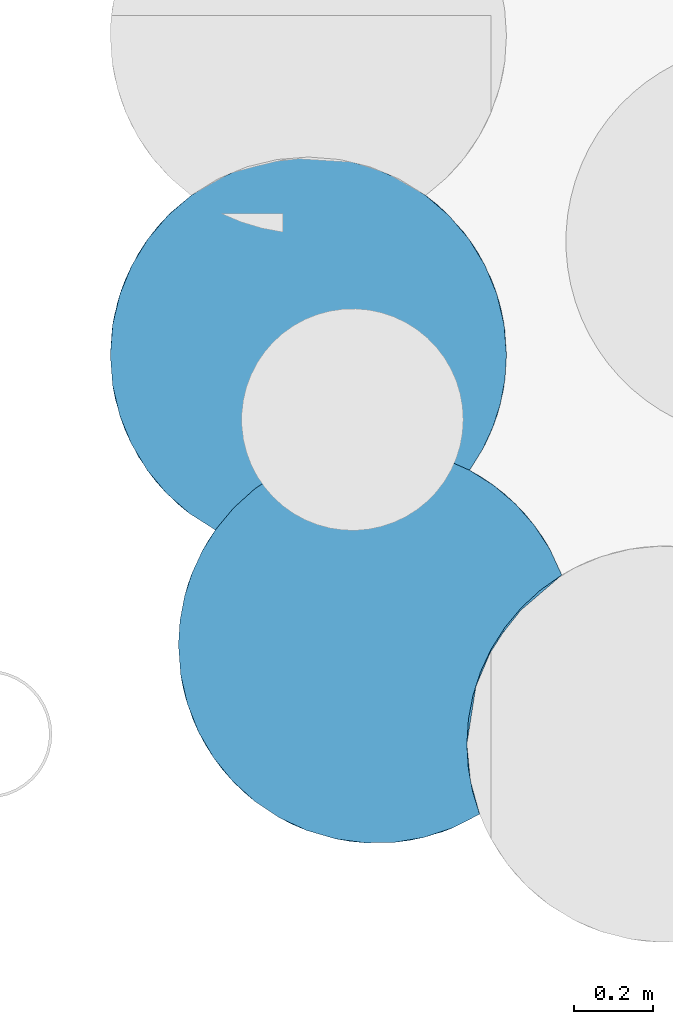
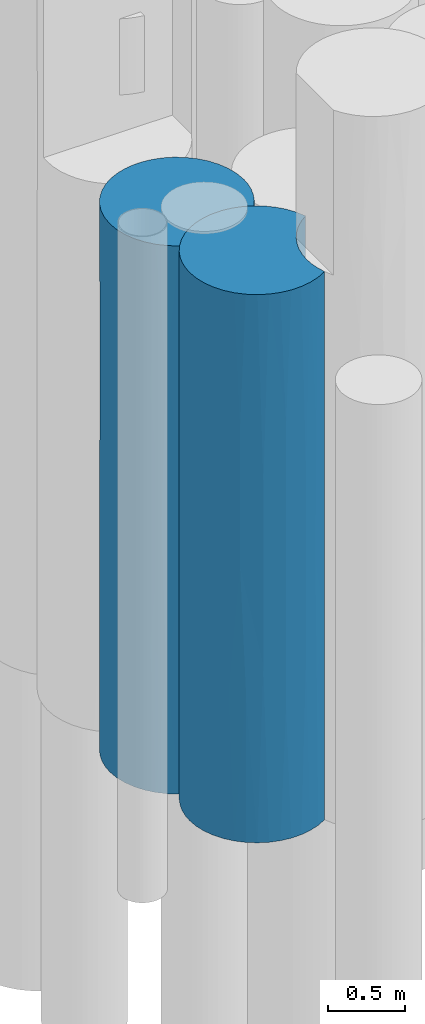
# One storey, part 32 of 104: 2 piles.
"""IFC2X3 building model written with IfcOpenShell, lengths in millimetres."""

import ifcopenshell
import ifcopenshell.guid

model = None  # the IFC model being written
_history = None  # IfcOwnerHistory: only IFC2X3 demands one
_inside = {}  # id of a spatial element -> (the spatial element, [elements in it])
_under = {}  # id of a project, library or spatial element -> (it, [spatial elements below it])
_declared = {}  # id of a project -> (the project, [libraries it declares])
_typed = {}  # id of a type object -> (the type object, [elements of that type])
_made_of = {}  # id of a material, layer set ... -> (it, [elements and type objects made of it])


def new_model(schema):
    """Start an empty IFC model of exactly this schema.

    Asked for "IFC4X3", IfcOpenShell would pick the latest addendum, in which some entities
    have other attributes; the version numbers below select the first issue.
    IFC2X3 requires an IfcOwnerHistory on every rooted entity: one is made here for all.
    """
    global model, _history
    if schema == "IFC4X3":
        model = ifcopenshell.file(schema_version=(4, 3, 0, 0))
    else:
        model = ifcopenshell.file(schema=schema)
    _inside.clear()
    _under.clear()
    _declared.clear()
    _typed.clear()
    _made_of.clear()
    _history = None
    if model.schema == "IFC2X3":
        org = make("IfcOrganization", Name="unknown")
        user = make(
            "IfcPersonAndOrganization",
            ThePerson=make("IfcPerson", FamilyName="unknown"),
            TheOrganization=org,
        )
        app = make(
            "IfcApplication",
            ApplicationDeveloper=org,
            Version="unknown",
            ApplicationFullName="unknown",
            ApplicationIdentifier="unknown",
        )
        _history = make(
            "IfcOwnerHistory",
            OwningUser=user,
            OwningApplication=app,
            ChangeAction="ADDED",
            CreationDate=0,
        )
    return model


def make(cls, **values):
    """One entity of the class cls with the attributes given. An attribute that is None is left unset."""
    return model.create_entity(
        cls, **{name: value for name, value in values.items() if value is not None}
    )


def entity(cls, *values):
    """Any entity or typed value of the class cls, its attributes in the order of the schema. None: left unset."""
    e = model.create_entity(cls)
    for i, value in enumerate(values):
        if value is not None:
            e[i] = value
    return e


def rooted(cls, **values):
    """An entity with a GlobalId (a new one), such as an element, a storey or a relation."""
    return make(cls, GlobalId=ifcopenshell.guid.new(), OwnerHistory=_history, **values)


def si_unit(unit_type, name, prefix=None):
    """IfcSIUnit, for example si_unit("LENGTHUNIT", "METRE", prefix="MILLI")."""
    return make("IfcSIUnit", UnitType=unit_type, Prefix=prefix, Name=name)


def converted_unit(unit_type, name, factor, base, dimensions=None, offset=None):
    """IfcConversionBasedUnit, such as the inch: factor (a typed value) times the base unit."""
    return make(
        "IfcConversionBasedUnit"
        if offset is None
        else "IfcConversionBasedUnitWithOffset",
        ConversionOffset=offset,
        Dimensions=None
        if dimensions is None
        else entity("IfcDimensionalExponents", *dimensions),
        UnitType=unit_type,
        Name=name,
        ConversionFactor=make(
            "IfcMeasureWithUnit", ValueComponent=factor, UnitComponent=base
        ),
    )


def derived_unit(unit_type, elements):
    """IfcDerivedUnit: a product of units, each with its exponent."""
    return make(
        "IfcDerivedUnit",
        Elements=[
            make("IfcDerivedUnitElement", Unit=unit, Exponent=power)
            for unit, power in elements
        ],
        UnitType=unit_type,
    )


def assignment(units):
    """IfcUnitAssignment: the units of a project."""
    return None if units is None else make("IfcUnitAssignment", Units=units)


def point(xyz):
    """IfcCartesianPoint."""
    return None if xyz is None else make("IfcCartesianPoint", Coordinates=xyz)


def direction(xyz):
    """IfcDirection."""
    return None if xyz is None else make("IfcDirection", DirectionRatios=xyz)


def frame(location, z_axis=None, x_axis=None):
    """IfcAxis2Placement3D, a coordinate frame: its origin and axes. An axis left out is left unset."""
    return make(
        "IfcAxis2Placement3D",
        Location=point(location),
        Axis=direction(z_axis),
        RefDirection=direction(x_axis),
    )


def origin():
    """The frame at (0, 0, 0) with its axes left unset."""
    return frame((0.0, 0.0, 0.0))


def place(relative_to, where):
    """IfcLocalPlacement: puts the frame where relative to a parent placement (None: the world)."""
    return make(
        "IfcLocalPlacement", PlacementRelTo=relative_to, RelativePlacement=where
    )


def context(
    kind, dimensions, precision=None, world=None, true_north=None, identifier=None
):
    """IfcGeometricRepresentationContext, for example the 3D "Model" context."""
    return make(
        "IfcGeometricRepresentationContext",
        ContextIdentifier=identifier,
        ContextType=kind,
        CoordinateSpaceDimension=dimensions,
        Precision=precision,
        WorldCoordinateSystem=world,
        TrueNorth=true_north,
    )


def subcontext(parent, identifier, kind, view, scale=None):
    """IfcGeometricRepresentationSubContext, for example "Body" below "Model"."""
    return make(
        "IfcGeometricRepresentationSubContext",
        ContextIdentifier=identifier,
        ContextType=kind,
        ParentContext=parent,
        TargetScale=scale,
        TargetView=view,
    )


def project(units=None, contexts=None):
    """IfcProject with its units and contexts."""
    return rooted(
        "IfcProject",
        Name="project",
        RepresentationContexts=contexts,
        UnitsInContext=assignment(units),
    )


def spatial(cls, under=None, at=None, **own):
    """A site, building, storey or space (cls), placed at a placement, below another one or the project."""
    s = rooted(cls, ObjectPlacement=at, **own)
    if under is not None:
        _under.setdefault(under.id(), (under, []))[1].append(s)
    return s


def faces_of(points, faces, orient=None, outer=None):
    """IfcFace entities. A face is a list of loops; a loop is a list of indices into points, from 0.

    orient and outer hold one flag for each loop. By default every Orientation is true, the
    first loop of a face is its IfcFaceOuterBound and the others are IfcFaceBound.
    """
    made = []
    for i, loops in enumerate(faces):
        bounds = []
        for j, loop in enumerate(loops):
            is_outer = j == 0 if outer is None else outer[i][j]
            bounds.append(
                make(
                    "IfcFaceOuterBound" if is_outer else "IfcFaceBound",
                    Bound=make("IfcPolyLoop", Polygon=[points[k] for k in loop]),
                    Orientation=True if orient is None else orient[i][j],
                )
            )
        made.append(make("IfcFace", Bounds=bounds))
    return made


def faceted_brep(points, faces, orient=None, outer=None, voids=None):
    """IfcFacetedBrep: a solid bounded by flat faces; with voids (closed shells), ...WithVoids."""
    shared = [point(p) for p in points]
    hull = make("IfcClosedShell", CfsFaces=faces_of(shared, faces, orient, outer))
    if voids is None:
        return make("IfcFacetedBrep", Outer=hull)
    return make(
        "IfcFacetedBrepWithVoids",
        Outer=hull,
        Voids=[
            make(cls, CfsFaces=faces_of(shared, fs, o, b)) for cls, fs, o, b in voids
        ],
    )


def shape(context_of_items, identifier, shape_type, items):
    """IfcShapeRepresentation: the items that make up one representation, for example the "Body"."""
    return make(
        "IfcShapeRepresentation",
        ContextOfItems=context_of_items,
        RepresentationIdentifier=identifier,
        RepresentationType=shape_type,
        Items=items,
    )


def source(mapping_origin, context_of_items, identifier, shape_type, items):
    """IfcRepresentationMap: a shape defined once, which mapped items show again and again."""
    return make(
        "IfcRepresentationMap",
        MappingOrigin=mapping_origin,
        MappedRepresentation=shape(context_of_items, identifier, shape_type, items),
    )


def transform(
    local_origin,
    x_axis=None,
    y_axis=None,
    z_axis=None,
    scale=None,
    scale2=None,
    scale3=None,
    uniform=True,
):
    """IfcCartesianTransformationOperator3D, or its non-uniform kind. x_axis, y_axis, z_axis: its Axis1, 2, 3."""
    if uniform:
        return make(
            "IfcCartesianTransformationOperator3D",
            Axis1=direction(x_axis),
            Axis2=direction(y_axis),
            LocalOrigin=point(local_origin),
            Scale=scale,
            Axis3=direction(z_axis),
        )
    return make(
        "IfcCartesianTransformationOperator3DnonUniform",
        Axis1=direction(x_axis),
        Axis2=direction(y_axis),
        LocalOrigin=point(local_origin),
        Scale=scale,
        Axis3=direction(z_axis),
        Scale2=scale2,
        Scale3=scale3,
    )


def mapped(mapping_source, mapping_target):
    """IfcMappedItem: shows the shape of a source again, moved by a transform."""
    return make(
        "IfcMappedItem", MappingSource=mapping_source, MappingTarget=mapping_target
    )


def material(Name=None, Category=None):
    """IfcMaterial."""
    return make("IfcMaterial", Name=Name, Category=Category)


def made_of(thing, what):
    """Note that an element or type object is made of a material, layer set ...; save() writes the relation."""
    if what is not None:
        _made_of.setdefault(what.id(), (what, []))[1].append(thing)
    return thing


def element(
    cls,
    number,
    at=None,
    inside=None,
    cuts=None,
    type_object=None,
    material=None,
    context=None,
    identifier="Body",
    shape_type=None,
    held_by="IfcProductDefinitionShape",
    body=None,
    shapes=None,
    **own,
):
    """One element of the class cls, such as IfcWall. Its Tag is "e" and its number.

    at: its placement. inside: the storey or other place that contains it. cuts: it is an
    opening in that element (IfcRelVoidsElement). A single representation is given by context,
    identifier, shape_type and body (its items); several are given by shapes. held_by: the class
    of the entity that holds the representations. save() writes the other relations.
    """
    e = rooted(cls, Tag="e%d" % number, ObjectPlacement=at, **own)
    if body is not None:
        shapes = [shape(context, identifier, shape_type, body)]
    if shapes is not None:
        e.Representation = make(held_by, Representations=shapes)
    if inside is not None:
        _inside.setdefault(inside.id(), (inside, []))[1].append(e)
    if cuts is not None:
        rooted(
            "IfcRelVoidsElement", RelatingBuildingElement=cuts, RelatedOpeningElement=e
        )
    if type_object is not None:
        _typed.setdefault(type_object.id(), (type_object, []))[1].append(e)
    return made_of(e, material)


def aggregate(whole, parts):
    """IfcRelAggregates: a whole, such as a stair, and the parts it consists of."""
    return rooted("IfcRelAggregates", RelatingObject=whole, RelatedObjects=parts)


def save(model, path):
    """Write the relations noted so far, then the file.

    IfcRelAggregates (storeys below a building ...), IfcRelContainedInSpatialStructure (elements
    in a storey), IfcRelDefinesByType, IfcRelAssociatesMaterial and IfcRelDeclares: one each for
    every whole, place, type object, material and project.
    """
    for whole, parts in _under.values():
        aggregate(whole, parts)
    for where, things in _inside.values():
        rooted(
            "IfcRelContainedInSpatialStructure",
            RelatedElements=things,
            RelatingStructure=where,
        )
    for kind, things in _typed.values():
        rooted("IfcRelDefinesByType", RelatedObjects=things, RelatingType=kind)
    for what, things in _made_of.values():
        rooted("IfcRelAssociatesMaterial", RelatedObjects=things, RelatingMaterial=what)
    for by, libraries in _declared.values():
        rooted("IfcRelDeclares", RelatingContext=by, RelatedDefinitions=libraries)
    model.write(path)


model = new_model("IFC2X3")

# Units and contexts
model_context = context("Model", 3, precision=0.01, world=origin(), true_north=direction((6.12303176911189e-17, 1.0)))
body_context = subcontext(model_context, "Body", "Model", "MODEL_VIEW")
ifc_project = project(units=[si_unit("LENGTHUNIT", "METRE", prefix="MILLI"), si_unit("AREAUNIT", "SQUARE_METRE", prefix="MILLI"), si_unit("VOLUMEUNIT", "CUBIC_METRE"), converted_unit("PLANEANGLEUNIT", "DEGREE", entity("IfcRatioMeasure", 0.0174532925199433), si_unit("PLANEANGLEUNIT", "RADIAN"), dimensions=[0, 0, 0, 0, 0, 0, 0]), si_unit("MASSUNIT", "GRAM", prefix="KILO"), derived_unit("MASSDENSITYUNIT", [(si_unit("MASSUNIT", "GRAM", prefix="KILO"), 1), (si_unit("LENGTHUNIT", "METRE"), -3)]), derived_unit("MOMENTOFINERTIAUNIT", [(si_unit("LENGTHUNIT", "METRE"), 4)]), si_unit("TIMEUNIT", "SECOND"), si_unit("FREQUENCYUNIT", "HERTZ"), si_unit("THERMODYNAMICTEMPERATUREUNIT", "DEGREE_CELSIUS"), derived_unit("THERMALTRANSMITTANCEUNIT", [(si_unit("MASSUNIT", "GRAM", prefix="KILO"), 1), (si_unit("THERMODYNAMICTEMPERATUREUNIT", "KELVIN"), -1), (si_unit("TIMEUNIT", "SECOND"), -3)]), derived_unit("VOLUMETRICFLOWRATEUNIT", [(si_unit("LENGTHUNIT", "METRE"), 3), (si_unit("TIMEUNIT", "SECOND"), -1)]), si_unit("ELECTRICCURRENTUNIT", "AMPERE"), si_unit("ELECTRICVOLTAGEUNIT", "VOLT"), si_unit("POWERUNIT", "WATT"), si_unit("FORCEUNIT", "NEWTON", prefix="KILO"), si_unit("ILLUMINANCEUNIT", "LUX"), si_unit("LUMINOUSFLUXUNIT", "LUMEN"), si_unit("LUMINOUSINTENSITYUNIT", "CANDELA"), derived_unit("USERDEFINED", [(si_unit("MASSUNIT", "GRAM", prefix="KILO"), -1), (si_unit("LENGTHUNIT", "METRE"), -2), (si_unit("TIMEUNIT", "SECOND"), 3), (si_unit("LUMINOUSFLUXUNIT", "LUMEN"), 1)]), derived_unit("LINEARVELOCITYUNIT", [(si_unit("LENGTHUNIT", "METRE"), 1), (si_unit("TIMEUNIT", "SECOND"), -1)]), si_unit("PRESSUREUNIT", "PASCAL"), derived_unit("USERDEFINED", [(si_unit("LENGTHUNIT", "METRE"), -2), (si_unit("MASSUNIT", "GRAM", prefix="KILO"), 1), (si_unit("TIMEUNIT", "SECOND"), -2)]), derived_unit("LINEARFORCEUNIT", [(si_unit("MASSUNIT", "GRAM", prefix="KILO"), 1), (si_unit("LENGTHUNIT", "METRE"), 1), (si_unit("TIMEUNIT", "SECOND"), -2), (si_unit("LENGTHUNIT", "METRE"), -1)]), derived_unit("PLANARFORCEUNIT", [(si_unit("MASSUNIT", "GRAM", prefix="KILO"), 1), (si_unit("LENGTHUNIT", "METRE"), 1), (si_unit("TIMEUNIT", "SECOND"), -2), (si_unit("LENGTHUNIT", "METRE"), -2)])], contexts=[model_context])

# Site, building, storey
site_placement = place(None, origin())
site = spatial("IfcSite", under=ifc_project, at=site_placement, Name="Theater aan de Parade", CompositionType="ELEMENT")
building_placement = place(site_placement, origin())
building = spatial("IfcBuilding", under=site, at=building_placement, Name="Theater aan de Parade", CompositionType="ELEMENT")
storey_placement = place(building_placement, frame((0.0, 0.0, -5520.0)))
storey = spatial("IfcBuildingStorey", under=building, at=storey_placement, Name="-2 kelder", CompositionType="ELEMENT", Elevation=-5520.0)

# Piles
ifc_material = material(Name="00_PBT_MAT_grout")
shared_shape_1 = source(origin(), body_context, "Body", "Brep", [
    faceted_brep([(529.595316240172, 469.952352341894, 0.0), (780.198815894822, 469.952352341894, 0.0), (758.273971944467, 417.667479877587, 0.0), (742.412228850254, 363.249758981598, 0.0), (732.812781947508, 307.39738655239, 0.0), (729.595272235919, 250.765616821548, 0.0), (733.22273945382, 190.646495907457, 0.0), (744.052507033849, 131.39969555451, 0.0), (761.927436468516, 73.8848790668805, 0.0), (694.606769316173, 39.5210374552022, 0.0), (622.876460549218, 15.6977108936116, 0.0), (548.374580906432, 2.95873028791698, 0.0), (472.803483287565, 1.59527226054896, 0.0), (397.889976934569, 11.6386274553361, 0.0), (325.345887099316, 32.8594785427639, 0.0), (256.828955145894, 64.773128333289, 0.0), (193.904971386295, 106.65055904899, 0.0), (138.01200490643, 157.535070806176, 0.0), (90.4275468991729, 216.264120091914, 0.0), (52.2393176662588, 281.495860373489, 0.0), (24.3204039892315, 351.739779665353, 0.0), (7.30938907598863, 425.390118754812, 0.0), (1.5952722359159, 500.765616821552, 0.0), (5.44034762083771, 562.654959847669, 0.0), (16.9079442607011, 623.558915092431, 0.0), (35.82202315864, 682.576728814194, 0.0), (61.891306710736, 738.80011579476, 0.0), (94.7128555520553, 791.359022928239, 0.0), (140.564594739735, 846.68012924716, 0.0), (193.863160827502, 894.848029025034, 0.0), (253.513974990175, 934.880428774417, 0.0), (318.285690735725, 965.951168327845, 0.0), (386.841327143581, 987.419017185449, 0.0), (457.765544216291, 998.840867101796, 0.0), (529.595316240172, 999.980998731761, 0.0), (825.6398441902, 881.547858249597, 1797.02285625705), (852.19975317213, 857.243523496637, 1000.0), (797.399921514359, 903.87801983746, 1000.0), (652.627499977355, 977.409368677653, 3492.65099706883), (736.487734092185, 942.156069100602, 4320.0), (767.63390961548, 924.113515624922, 3391.08988709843), (939.032205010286, 742.941028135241, 4320.0), (969.263108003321, 677.64635457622, 4320.0), (969.263108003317, 677.64635457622, 3539.23138121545), (61.8847293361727, 738.787965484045, 4320.0), (77.4873219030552, 765.590929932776, 3258.80213770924), (35.81648088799, 682.562529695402, 4320.0), (318.602836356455, 966.076016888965, 4320.0), (285.612205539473, 951.710530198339, 3265.22081774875), (253.740150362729, 935.009601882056, 4320.0), (920.470170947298, 773.792756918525, 2128.26990450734), (899.738148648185, 803.225944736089, 1000.0), (687.401884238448, 964.95943726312, 1000.0), (712.246551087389, 954.225690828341, 1882.02867772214), (736.474035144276, 942.163358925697, 1000.0), (166.347671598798, 871.722549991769, 1424.98566727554), (252.565739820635, 934.337170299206, 1216.45978405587), (529.595316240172, 999.980998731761, 1000.0), (1.59527223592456, 500.765616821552, 1561.54631749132), (25.4497033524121, 653.361151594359, 1361.89303162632), (458.259648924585, 998.884100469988, 4320.0), (422.549802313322, 994.477895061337, 2893.0947389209), (387.249287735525, 987.515034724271, 4320.0), (636.176353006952, 982.313052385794, 1000.0), (556.574795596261, 997.733676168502, 2106.50649182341), (140.628099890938, 846.746397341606, 4320.0), (166.447607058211, 871.812840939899, 2887.75895173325), (583.393088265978, 994.029356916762, 1000.0), (25.4460190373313, 653.349654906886, 2958.04113680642), (662.02393305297, 974.329387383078, 2651.77272258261), (939.030530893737, 742.944052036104, 1000.0), (285.341091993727, 951.580578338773, 2159.81765558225), (446.767241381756, 997.750412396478, 1752.6078683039), (352.177456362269, 977.917915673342, 1155.69328857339), (969.263108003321, 677.646354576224, 1879.23138121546), (969.263108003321, 677.64635457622, 1000.0), (876.942749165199, 831.090111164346, 3391.06710769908), (931.609595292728, 755.8884930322, 3148.84669787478), (899.739272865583, 803.224464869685, 4320.0), (852.200161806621, 857.243121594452, 4320.0), (797.40134827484, 903.87697287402, 4320.0), (5.44078722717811, 562.658483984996, 4320.0), (1.59527223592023, 500.765616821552, 2758.4767332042), (77.4930235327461, 765.600060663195, 2159.99532485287), (565.989257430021, 996.601693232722, 3271.92007871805), (194.003143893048, 894.957299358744, 4320.0), (601.479664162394, 990.687149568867, 4320.0), (670.727796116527, 971.291056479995, 4320.0), (530.165406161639, 999.948696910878, 4320.0), (437.492450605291, 996.63941957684, 842.046795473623), (825.639843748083, 881.547858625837, 2659.99837895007), (77.4930236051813, 765.600060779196, 1061.19680304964), (16.9057578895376, 623.550284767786, 4320.0), (94.721610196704, 791.375016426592, 4320.0), (1.59527223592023, 500.765616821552, 4320.0), (969.263108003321, 677.646354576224, 2758.46215101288), (14.4211077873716, 388.243025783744, 1047.60367511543), (48.8502001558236, 288.581970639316, 970.999499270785), (585.866578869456, 7.91843271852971, 2820.49852107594), (435.156680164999, 5.19936142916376, 3267.96699157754), (435.156679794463, 5.19936147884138, 2160.0), (435.156679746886, 5.1993614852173, 1052.03300804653), (585.866578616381, 7.91843267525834, 1388.83186191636), (397.889977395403, 11.6386273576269, 4320.0), (325.345887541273, 32.8594783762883, 4320.0), (113.108399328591, 185.999116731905, 1163.90680760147), (164.995570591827, 131.035119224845, 2160.0), (194.901725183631, 105.874406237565, 1168.6525900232), (290.483511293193, 47.5197405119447, 1388.82679371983), (164.995570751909, 131.035119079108, 3267.9687320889), (138.012005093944, 157.535070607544, 4320.0), (90.4275470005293, 216.264119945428, 4320.0), (18.6521494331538, 371.282258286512, 3012.72441325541), (52.2393177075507, 281.495860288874, 4320.0), (24.3204039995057, 351.739779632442, 4320.0), (290.483511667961, 47.5197403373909, 2820.49030725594), (761.927436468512, 73.8848790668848, 3539.23114681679), (761.927436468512, 73.8848790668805, 4320.0), (694.606769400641, 39.5210374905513, 4320.0), (7.30938907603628, 425.390118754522, 4320.0), (70.0989850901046, 248.157314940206, 3037.40549691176), (36.9505451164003, 316.089474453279, 1904.90796999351), (9.73280577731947, 410.925124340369, 1930.75325702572), (193.904971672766, 106.650558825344, 4320.0), (256.828955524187, 64.7731281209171, 4320.0), (622.876460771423, 15.6977109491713, 4320.0), (678.332151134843, 33.0433962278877, 3148.84672020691), (93.1394587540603, 212.38418809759, 2116.79757400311), (666.753972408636, 28.8306596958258, 2104.66519031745), (761.927436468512, 73.8848790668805, 2758.46229363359), (679.843285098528, 33.6171972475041, 1196.63841599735), (761.927436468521, 73.8848790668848, 2940.76637442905), (472.803483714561, 1.5952722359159, 4320.0), (548.374581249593, 2.95873032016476, 4320.0), (761.927436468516, 73.8848790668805, 1561.53770636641), (761.927436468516, 73.8848790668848, 780.77025098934), (761.927436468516, 73.8848790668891, 2251.15731476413), (825.74706542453, 545.564914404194, 4320.0), (867.666484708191, 595.740330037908, 4320.0), (915.775519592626, 640.01767250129, 4320.0), (744.052507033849, 131.39969555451, 4320.0), (733.22273945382, 190.646495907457, 4320.0), (729.595272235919, 250.765616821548, 4320.0), (733.49439615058, 313.086726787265, 4320.0), (745.124595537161, 374.410929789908, 4320.0), (764.304663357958, 433.808369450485, 4320.0), (790.736647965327, 490.344510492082, 4320.0), (884.719407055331, 612.788596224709, 2086.86724534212), (911.336823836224, 636.396995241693, 1000.0), (776.63761016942, 462.495058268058, 2671.53365529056), (789.908353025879, 488.831601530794, 3473.56458771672), (753.786866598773, 404.409234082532, 3420.83622682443), (729.595272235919, 250.765616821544, 3539.22657774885), (745.902646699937, 377.420439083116, 2628.48148877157), (729.595272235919, 250.765616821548, 780.773422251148), (796.923427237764, 501.355071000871, 1852.34639465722), (845.885753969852, 571.338550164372, 3094.59734111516), (780.198815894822, 469.952352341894, 1000.0), (815.838817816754, 531.488961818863, 1000.0), (859.848225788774, 587.347139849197, 1000.0), (748.648150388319, 387.476501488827, 1800.58262164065), (729.595272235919, 250.765616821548, 2160.0), (746.072366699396, 378.066833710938, 897.060959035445), (729.595272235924, 250.765616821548, 1470.38059685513), (729.595272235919, 250.765616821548, 2849.61323616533), (737.744726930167, 160.859882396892, 1125.57664146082), (737.744726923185, 160.859882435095, 3240.0), (738.289274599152, 157.930188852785, 1906.34549497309), (739.267752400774, 152.893642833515, 2573.92169608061), (529.595316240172, 469.952352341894, 1000.0)], [[[0, 1, 2, 3, 4, 5, 6, 7, 8, 9, 10, 11, 12, 13, 14, 15, 16, 17, 18, 19, 20, 21, 22, 23, 24, 25, 26, 27, 28, 29, 30, 31, 32, 33, 34]], [[35, 36, 37]], [[38, 39, 40]], [[41, 42, 43]], [[44, 45, 46]], [[47, 48, 49]], [[35, 50, 51]], [[52, 53, 54]], [[29, 55, 56]], [[57, 34, 33]], [[58, 59, 23]], [[53, 35, 37]], [[60, 61, 62]], [[63, 64, 53]], [[65, 66, 45]], [[23, 22, 58]], [[64, 67, 57]], [[63, 53, 52]], [[63, 67, 64]], [[59, 58, 68]], [[53, 64, 69]], [[50, 70, 51]], [[71, 72, 73]], [[74, 70, 50]], [[23, 59, 24]], [[70, 74, 75]], [[50, 76, 77]], [[41, 77, 78]], [[40, 79, 76]], [[79, 78, 76]], [[39, 80, 40]], [[81, 68, 82]], [[59, 68, 83]], [[80, 79, 40]], [[69, 84, 38]], [[48, 85, 49]], [[60, 84, 61]], [[86, 87, 38]], [[72, 64, 57]], [[86, 84, 88]], [[68, 58, 82]], [[32, 73, 89]], [[50, 35, 90]], [[55, 29, 28]], [[66, 48, 71]], [[73, 32, 31]], [[41, 43, 77]], [[40, 69, 38]], [[56, 55, 71]], [[83, 66, 55]], [[53, 40, 90]], [[59, 83, 91]], [[35, 51, 36]], [[33, 89, 57]], [[92, 46, 68]], [[59, 91, 25]], [[61, 84, 64]], [[69, 64, 84]], [[25, 24, 59]], [[27, 26, 91]], [[90, 40, 76]], [[48, 47, 62]], [[68, 81, 92]], [[57, 89, 72]], [[60, 88, 84]], [[62, 61, 48]], [[66, 83, 45]], [[71, 55, 66]], [[28, 27, 91]], [[66, 85, 48]], [[61, 71, 48]], [[91, 55, 28]], [[85, 66, 65]], [[45, 93, 65]], [[55, 91, 83]], [[45, 44, 93]], [[81, 82, 94]], [[53, 90, 35]], [[40, 53, 69]], [[68, 46, 45]], [[68, 45, 83]], [[37, 54, 53]], [[91, 26, 25]], [[72, 71, 61]], [[56, 31, 30]], [[50, 90, 76]], [[56, 71, 73]], [[61, 64, 72]], [[31, 56, 73]], [[29, 56, 30]], [[32, 89, 33]], [[72, 89, 73]], [[50, 95, 74]], [[86, 38, 84]], [[38, 87, 39]], [[77, 43, 95]], [[50, 77, 95]], [[77, 76, 78]], [[96, 20, 97]], [[98, 99, 100, 101, 102]], [[99, 103, 104]], [[105, 18, 17]], [[106, 107, 108]], [[109, 110, 111]], [[112, 113, 114]], [[101, 12, 11]], [[107, 17, 16]], [[115, 109, 106, 108]], [[108, 101, 100, 99, 115]], [[15, 108, 107]], [[116, 117, 118]], [[119, 94, 82]], [[14, 13, 101]], [[96, 21, 20]], [[22, 21, 96]], [[11, 102, 101]], [[119, 82, 112]], [[97, 18, 105]], [[120, 112, 121]], [[58, 122, 82]], [[104, 115, 99]], [[123, 110, 109]], [[109, 111, 120]], [[115, 124, 109]], [[125, 98, 126]], [[108, 15, 14]], [[127, 105, 106]], [[127, 109, 120]], [[12, 101, 13]], [[10, 102, 11]], [[128, 126, 98]], [[129, 126, 128]], [[10, 9, 130]], [[121, 97, 127]], [[126, 129, 131, 116]], [[120, 111, 113]], [[109, 124, 123]], [[124, 115, 104]], [[103, 99, 132]], [[98, 125, 133]], [[98, 133, 99]], [[19, 97, 20]], [[134, 128, 130]], [[130, 8, 135, 134]], [[122, 96, 121]], [[132, 99, 133]], [[107, 106, 105]], [[96, 122, 58]], [[14, 101, 108]], [[97, 121, 96]], [[118, 125, 126]], [[22, 96, 58]], [[118, 126, 116]], [[98, 102, 128]], [[130, 128, 102]], [[128, 134, 136, 129]], [[113, 112, 120]], [[119, 112, 114]], [[18, 97, 19]], [[127, 97, 105]], [[10, 130, 102]], [[8, 130, 9]], [[17, 107, 105]], [[15, 107, 16]], [[109, 127, 106]], [[121, 127, 120]], [[121, 112, 122]], [[82, 122, 112]], [[137, 138, 139, 42, 41, 78, 79, 80, 39, 87, 86, 88, 60, 62, 47, 49, 85, 65, 93, 44, 46, 92, 81, 94, 119, 114, 113, 111, 110, 123, 124, 104, 103, 132, 133, 125, 118, 117, 140, 141, 142, 143, 144, 145, 146]], [[74, 147, 148]], [[139, 95, 43, 42]], [[149, 150, 151]], [[152, 153, 151]], [[154, 5, 4]], [[155, 147, 156]], [[157, 158, 155]], [[159, 155, 158]], [[95, 139, 156]], [[155, 149, 160]], [[159, 148, 147]], [[138, 156, 139]], [[138, 137, 156]], [[151, 144, 143]], [[160, 157, 155]], [[153, 161, 160]], [[2, 1, 157]], [[146, 150, 137]], [[154, 162, 160]], [[162, 157, 160]], [[147, 155, 159]], [[3, 2, 162]], [[151, 153, 149]], [[143, 142, 152]], [[145, 151, 150]], [[145, 144, 151]], [[150, 156, 137]], [[4, 162, 154]], [[152, 151, 143]], [[153, 160, 149]], [[160, 161, 163, 154]], [[148, 75, 74]], [[149, 155, 156]], [[145, 150, 146]], [[150, 149, 156]], [[147, 95, 156]], [[153, 152, 164, 161]], [[74, 95, 147]], [[157, 162, 2]], [[4, 3, 162]], [[165, 134, 135]], [[116, 131, 166]], [[135, 8, 7]], [[140, 117, 116]], [[141, 166, 152]], [[5, 154, 6]], [[152, 142, 141]], [[165, 163, 167]], [[140, 116, 166]], [[166, 141, 140]], [[7, 165, 135]], [[164, 168, 161]], [[136, 134, 167]], [[165, 7, 6]], [[168, 167, 161]], [[136, 167, 168]], [[131, 168, 166]], [[154, 165, 6]], [[164, 152, 166]], [[163, 165, 154]], [[163, 161, 167]], [[134, 165, 167]], [[168, 131, 129, 136]], [[166, 168, 164]], [[169, 57, 67, 63, 52, 54, 37, 36, 51, 70, 75, 148, 159, 158, 157]], [[169, 0, 34, 57]], [[169, 157, 1, 0]]]),
])
pile_1_placement = place(storey_placement, frame((34424.2628578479, 38230.047647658, -3840.0)))
element("IfcPile", 1, at=pile_1_placement, inside=storey, material=ifc_material, Name="17_PBT_SFO_grondkering_rond:Ø1000 (grondkering)", ObjectType="17_PBT_SFO_grondkering_rond:Ø1000 (grondkering)", PredefinedType="NOTDEFINED", context=body_context, shape_type="MappedRepresentation", body=[
    mapped(shared_shape_1, transform((0.0, 0.0, 0.0), scale=1.0)),
])
shared_shape_2 = source(origin(), body_context, "Body", "Brep", [
    faceted_brep([(337.267954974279, 915.218101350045, 0.0), (409.327313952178, 934.405899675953, 0.0), (483.43893080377, 942.663252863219, 0.0), (557.954409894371, 939.806508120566, 0.0), (631.216188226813, 925.899235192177, 0.0), (701.595316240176, 901.250564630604, 0.0), (701.595316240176, 210.208396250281, 0.0), (629.765046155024, 209.068220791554, 0.0), (558.839585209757, 197.646003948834, 0.0), (490.28308845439, 176.177540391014, 0.0), (425.510805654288, 145.106015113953, 0.0), (365.859867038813, 105.072854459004, 0.0), (312.561680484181, 56.9044851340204, 0.0), (266.716509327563, 1.59527223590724, 0.0), (201.582387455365, 43.0026782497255, 0.0), (143.58810707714, 93.9502237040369, 0.0), (94.1271469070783, 153.217710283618, 0.0), (54.3785337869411, 219.392502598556, 0.0), (25.2898086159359, 290.897303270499, 0.0), (7.5544555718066, 366.027622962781, 0.0), (1.5952722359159, 442.993014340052, 0.0), (6.07432865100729, 509.768717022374, 0.0), (19.4252295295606, 575.32611645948, 0.0), (41.4084006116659, 638.512944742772, 0.0), (71.6284256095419, 698.19589598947, 0.0), (109.544847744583, 753.309731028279, 0.0), (154.481005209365, 802.870334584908, 0.0), (205.626160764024, 845.98271103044, 0.0), (268.86361336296, 885.526600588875, 0.0), (931.561994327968, 698.196105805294, 1000.0), (893.642875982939, 753.313294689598, 1000.0), (913.525319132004, 726.389620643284, 1794.94863584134), (329.612326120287, 912.484085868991, 3091.9603916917), (396.816864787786, 931.891250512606, 4320.0), (431.453676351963, 938.048724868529, 2963.7139936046), (146.540961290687, 795.039085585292, 4320.0), (120.151769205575, 766.258932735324, 3151.66899780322), (96.0889045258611, 735.507263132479, 4320.0), (466.437723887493, 941.755429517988, 4320.0), (973.833947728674, 607.281277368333, 2254.45342702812), (961.78406984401, 638.508411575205, 1000.0), (823.851345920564, 825.29004934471, 1896.7561536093), (848.705670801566, 802.874065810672, 1000.0), (797.553039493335, 845.993014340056, 1000.0), (1.5952722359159, 442.993014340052, 1561.52347286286), (29.3588035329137, 607.287620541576, 1508.10243108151), (701.595316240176, 901.250564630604, 1000.0), (39.2495697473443, 633.351758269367, 2925.28256573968), (68.7282990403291, 693.245254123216, 1949.30464322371), (828.096814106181, 821.670638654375, 3415.37652831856), (928.691430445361, 702.971612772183, 3502.51562116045), (913.525318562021, 726.389621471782, 2647.33256798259), (576.127887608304, 937.406696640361, 1220.15673786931), (751.132867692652, 876.272356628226, 1000.0), (726.710797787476, 889.449059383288, 1888.68669194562), (752.727056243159, 875.350305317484, 3480.12737665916), (797.553039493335, 845.993014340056, 4320.0), (640.493358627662, 923.313034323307, 3297.81061743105), (606.373679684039, 931.891250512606, 4320.0), (673.925360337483, 912.356775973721, 4320.0), (236.517183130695, 866.943019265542, 1159.11426059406), (947.676469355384, 668.850415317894, 4320.0), (907.101639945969, 735.507263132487, 4320.0), (774.762815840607, 861.776363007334, 2660.0), (997.117785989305, 509.757064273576, 1000.0), (983.767567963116, 575.317907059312, 1000.0), (1001.59527223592, 442.993014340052, 2561.53773810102), (1001.59527223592, 442.993014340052, 1780.76885298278), (1001.59527223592, 442.993014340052, 1000.0), (987.928790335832, 559.095164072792, 3266.84548723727), (977.385746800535, 596.692150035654, 4320.0), (995.505804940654, 520.790094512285, 4320.0), (12.0944515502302, 544.919196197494, 2347.41953959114), (9.36271487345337, 530.783158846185, 3331.47068918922), (446.228969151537, 939.918131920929, 1471.0103947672), (571.736867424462, 938.048724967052, 2442.67948089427), (1001.59527223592, 442.993014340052, 3440.76886905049), (131.183104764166, 778.842424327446, 1939.17227682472), (208.849935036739, 848.332585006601, 2195.80534539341), (156.097290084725, 804.422321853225, 1054.67758261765), (302.511485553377, 901.649362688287, 2154.50677796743), (856.649583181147, 795.039085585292, 4320.0), (234.716403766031, 865.811733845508, 3146.5406096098), (738.073268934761, 883.536039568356, 4320.0), (537.425513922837, 941.707555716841, 3354.56480731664), (339.547876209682, 916.005320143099, 1169.05151872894), (89.6638674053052, 726.38764681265, 1042.76742276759), (1.59527223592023, 442.993014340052, 4320.0), (7.68473953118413, 520.790094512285, 4320.0), (25.8047976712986, 596.692150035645, 4320.0), (55.5140751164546, 668.850415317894, 4320.0), (536.752820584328, 941.755429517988, 4320.0), (265.117275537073, 883.536039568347, 4320.0), (329.265184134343, 912.356775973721, 4320.0), (205.637504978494, 845.993014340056, 4320.0), (1.59527223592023, 442.993014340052, 2758.45324826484), (1001.59527223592, 442.993014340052, 4320.0), (1001.59527223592, 442.993014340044, 3539.23114701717), (1001.59527223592, 442.993014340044, 2758.46229403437), (117.712134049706, 122.62800967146, 1167.5230794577), (38.4521534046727, 254.582686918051, 1167.52341730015), (9.21656415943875, 356.026309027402, 984.55475079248), (14.9465925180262, 328.219051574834, 2160.0), (38.4521533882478, 254.582686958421, 3152.47658242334), (9.2165641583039, 356.026309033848, 3335.44524931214), (171.670956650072, 67.2937383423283, 2160.0), (72.9738427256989, 185.536862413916, 2160.0), (143.588107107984, 93.9502236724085, 4320.0), (193.530216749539, 49.1708189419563, 3335.49198464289), (201.582387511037, 43.0026782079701, 4320.0), (54.3785337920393, 219.39250258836, 4320.0), (117.712134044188, 122.62800967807, 3152.47692069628), (193.530216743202, 49.1708189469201, 984.508015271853), (266.716509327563, 1.59527223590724, 780.766665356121), (266.716509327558, 1.59527223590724, 1561.53770703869), (266.716509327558, 1.59527223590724, 2758.46229296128), (266.716509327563, 1.59527223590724, 3539.22595004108), (266.716509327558, 1.59527223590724, 4320.0), (25.2898086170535, 290.897303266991, 4320.0), (266.716509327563, 1.59527223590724, 2159.9963076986), (94.1271469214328, 153.217710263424, 4320.0), (7.55445557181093, 366.027622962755, 4320.0), (312.616306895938, 56.9614906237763, 4320.0), (365.984339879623, 105.170023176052, 4320.0), (425.716485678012, 145.223491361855, 4320.0), (490.576955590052, 176.293235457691, 4320.0), (559.223861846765, 197.736458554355, 4320.0), (630.23697971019, 209.109525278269, 4320.0), (702.147130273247, 210.177140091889, 4320.0), (773.46657606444, 200.917215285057, 4320.0), (842.719800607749, 181.52132794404, 4320.0), (908.47403514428, 152.390756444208, 4320.0), (941.298640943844, 204.957412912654, 4320.0), (967.367664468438, 261.179707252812, 4320.0), (986.281972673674, 320.197239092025, 4320.0), (997.749990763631, 381.10201917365, 4320.0), (654.080497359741, 210.612042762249, 1776.52655155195), (773.105508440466, 200.990680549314, 1000.0), (808.176238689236, 192.540481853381, 2129.27573429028), (524.514369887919, 188.250685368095, 3163.19744300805), (395.129336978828, 126.272104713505, 3164.75236754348), (701.595316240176, 210.208396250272, 1000.0), (394.96541728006, 126.162141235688, 1155.7028505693), (357.053753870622, 98.0349592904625, 2160.62016354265), (318.401137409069, 62.8980108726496, 1357.12703056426), (737.973557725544, 206.83112941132, 3391.39915441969), (646.671197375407, 210.267582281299, 3487.46894095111), (318.518241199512, 63.0161698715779, 2964.94556696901), (457.338185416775, 161.806581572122, 2159.83411953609), (566.341546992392, 199.354190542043, 2138.98157531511), (842.546415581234, 181.583612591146, 1000.0), (908.47403514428, 152.390756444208, 1879.23013733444), (828.609995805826, 186.356491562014, 3148.84671197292), (611.554965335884, 207.129084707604, 1044.83307545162), (908.47403514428, 152.390756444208, 3539.23013733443), (524.175267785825, 188.144627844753, 1155.7028499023), (666.172834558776, 210.937918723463, 2660.50198384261), (908.47403514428, 152.390756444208, 1000.0), (908.47403514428, 152.390756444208, 2758.46404160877), (964.499014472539, 253.995328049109, 1957.68892834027), (948.471055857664, 218.711864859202, 1000.0), (992.831318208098, 349.788147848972, 2160.9776378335), (995.597021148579, 365.777264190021, 1000.0), (977.740091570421, 290.395140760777, 2915.44606008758), (977.746183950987, 290.414151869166, 1000.0)], [[[0, 1, 2, 3, 4, 5, 6, 7, 8, 9, 10, 11, 12, 13, 14, 15, 16, 17, 18, 19, 20, 21, 22, 23, 24, 25, 26, 27, 28]], [[29, 30, 31]], [[32, 33, 34]], [[35, 36, 37]], [[34, 33, 38]], [[39, 40, 31]], [[29, 31, 40]], [[41, 42, 43]], [[44, 45, 21]], [[46, 5, 4]], [[45, 47, 48]], [[49, 50, 51]], [[4, 3, 52]], [[53, 54, 43]], [[49, 55, 56]], [[54, 53, 46]], [[41, 43, 54]], [[57, 58, 59]], [[28, 27, 60]], [[61, 50, 62]], [[54, 63, 41]], [[64, 65, 39]], [[64, 66, 67, 68]], [[69, 70, 71]], [[47, 72, 73]], [[52, 74, 75]], [[21, 20, 44]], [[71, 76, 69]], [[42, 41, 31]], [[51, 50, 39]], [[77, 78, 79]], [[69, 50, 70]], [[63, 55, 49]], [[34, 74, 80]], [[65, 40, 39]], [[81, 50, 49]], [[56, 81, 49]], [[69, 39, 50]], [[80, 82, 32]], [[83, 56, 55]], [[74, 34, 75]], [[84, 57, 75]], [[85, 1, 0]], [[74, 52, 2]], [[36, 48, 47]], [[85, 28, 60]], [[31, 30, 42]], [[66, 39, 69]], [[79, 86, 77]], [[75, 54, 52]], [[41, 49, 51]], [[50, 81, 62]], [[60, 80, 85]], [[45, 86, 23]], [[39, 31, 51]], [[45, 22, 21]], [[55, 59, 83]], [[36, 77, 48]], [[87, 88, 73]], [[86, 25, 24]], [[41, 51, 31]], [[49, 41, 63]], [[45, 23, 22]], [[86, 79, 25]], [[54, 57, 63]], [[47, 89, 90]], [[84, 58, 57]], [[58, 84, 91]], [[90, 37, 36]], [[89, 47, 73]], [[84, 38, 91]], [[80, 32, 34]], [[78, 36, 82]], [[80, 78, 82]], [[92, 93, 32]], [[72, 47, 45]], [[82, 94, 92]], [[85, 80, 74]], [[79, 27, 26]], [[57, 54, 75]], [[94, 82, 35]], [[90, 36, 47]], [[48, 86, 45]], [[23, 86, 24]], [[86, 48, 77]], [[60, 79, 78]], [[44, 95, 72]], [[52, 54, 46]], [[82, 36, 35]], [[1, 74, 2]], [[50, 61, 70]], [[64, 39, 66]], [[75, 34, 84]], [[38, 84, 34]], [[63, 57, 55]], [[59, 55, 57]], [[1, 85, 74]], [[28, 85, 0]], [[27, 79, 60]], [[25, 79, 26]], [[4, 52, 46]], [[2, 52, 3]], [[60, 78, 80]], [[36, 78, 77]], [[92, 32, 82]], [[33, 32, 93]], [[44, 72, 45]], [[73, 72, 95]], [[87, 73, 95]], [[73, 88, 89]], [[71, 96, 97, 76]], [[69, 76, 98, 66]], [[17, 99, 100]], [[101, 102, 44]], [[103, 104, 102]], [[105, 106, 99]], [[107, 108, 109]], [[110, 103, 111]], [[16, 99, 17]], [[20, 19, 101]], [[112, 13, 113, 114]], [[108, 115, 116, 117]], [[87, 95, 104]], [[20, 101, 44]], [[104, 103, 118]], [[99, 15, 112]], [[18, 17, 100]], [[106, 102, 100]], [[99, 106, 100]], [[102, 106, 103]], [[117, 109, 108]], [[112, 15, 14]], [[105, 114, 119, 115]], [[110, 111, 120]], [[18, 100, 101]], [[118, 103, 110]], [[104, 118, 121]], [[120, 111, 107]], [[105, 99, 112]], [[107, 111, 108]], [[102, 95, 44]], [[106, 111, 103]], [[18, 101, 19]], [[16, 15, 99]], [[108, 105, 115]], [[106, 105, 111]], [[87, 104, 121]], [[102, 104, 95]], [[13, 112, 14]], [[105, 112, 114]], [[102, 101, 100]], [[105, 108, 111]], [[58, 91, 38, 33, 93, 92, 94, 35, 37, 90, 89, 88, 87, 121, 118, 110, 120, 107, 109, 117, 122, 123, 124, 125, 126, 127, 128, 129, 130, 131, 132, 133, 134, 135, 96, 71, 70, 61, 62, 81, 56, 83, 59]], [[136, 137, 138]], [[139, 125, 140]], [[7, 6, 141]], [[10, 142, 11]], [[142, 143, 144]], [[145, 128, 146]], [[140, 123, 147]], [[139, 140, 148]], [[145, 129, 128]], [[148, 149, 139]], [[150, 138, 137]], [[113, 12, 144]], [[150, 151, 138]], [[152, 130, 129]], [[124, 140, 125]], [[153, 136, 149]], [[145, 138, 152]], [[154, 131, 130]], [[153, 155, 8]], [[147, 116, 115, 119]], [[9, 8, 155]], [[152, 154, 130]], [[143, 119, 144]], [[142, 10, 155]], [[123, 140, 124]], [[123, 122, 147]], [[143, 142, 148]], [[142, 155, 148]], [[12, 11, 144]], [[140, 143, 148]], [[127, 146, 128]], [[126, 125, 139]], [[156, 139, 149]], [[127, 126, 146]], [[113, 13, 12]], [[117, 116, 122]], [[141, 137, 136]], [[155, 153, 149]], [[151, 150, 157]], [[148, 155, 149]], [[156, 145, 146]], [[9, 155, 10]], [[145, 156, 138]], [[147, 143, 140]], [[156, 149, 136]], [[146, 139, 156]], [[139, 146, 126]], [[11, 142, 144]], [[144, 119, 114, 113]], [[143, 147, 119]], [[116, 147, 122]], [[156, 136, 138]], [[153, 141, 136]], [[153, 7, 141]], [[7, 153, 8]], [[151, 158, 138]], [[158, 154, 152]], [[158, 152, 138]], [[129, 145, 152]], [[159, 151, 160]], [[161, 67, 66, 98]], [[162, 68, 67]], [[132, 158, 163]], [[159, 160, 164]], [[132, 131, 154, 158]], [[98, 163, 161]], [[159, 158, 151]], [[161, 159, 164]], [[67, 161, 162]], [[158, 159, 163]], [[151, 157, 160]], [[134, 133, 163]], [[163, 97, 135]], [[135, 134, 163]], [[164, 162, 161]], [[97, 96, 135]], [[163, 133, 132]], [[163, 159, 161]], [[163, 98, 76, 97]], [[141, 46, 53, 43, 42, 30, 29, 40, 65, 64, 68, 162, 164, 160, 157, 150, 137]], [[46, 141, 6, 5]]]),
])
pile_2_placement = place(storey_placement, frame((34252.2628578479, 39019.8202501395, -3840.0)))
element("IfcPile", 2, at=pile_2_placement, inside=storey, material=ifc_material, Name="17_PBT_SFO_grondkering_rond:Ø1000 (grondkering)", ObjectType="17_PBT_SFO_grondkering_rond:Ø1000 (grondkering)", PredefinedType="NOTDEFINED", context=body_context, shape_type="MappedRepresentation", body=[
    mapped(shared_shape_2, transform((0.0, 0.0, 0.0), scale=1.0)),
])

save(model, "model.ifc")
